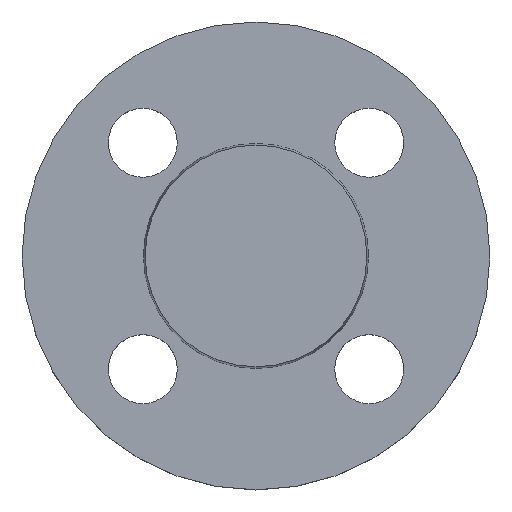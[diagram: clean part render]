
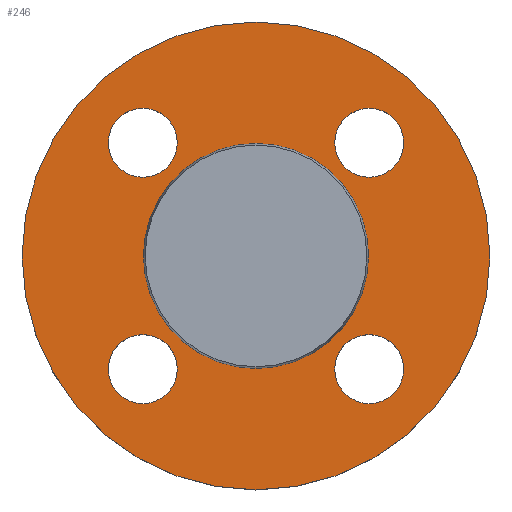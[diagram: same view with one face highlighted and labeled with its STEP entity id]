
A CAD part, top view. The second image highlights one B-rep face of the part: STEP entity #246.
In plain terms, the highlighted planar face has unit normal (0, 0, 1).
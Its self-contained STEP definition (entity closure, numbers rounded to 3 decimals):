
#2 = AXIS2_PLACEMENT_3D ( 'NONE', #385, #386, #387 ) ;
#3 = AXIS2_PLACEMENT_3D ( 'NONE', #490, #491, #494 ) ;
#6 = EDGE_CURVE ( 'NONE', #265, #253, #132, .T. ) ;
#8 = AXIS2_PLACEMENT_3D ( 'NONE', #295, #296, #297 ) ;
#11 = CIRCLE ( 'NONE', #258, 7. ) ;
#20 = CIRCLE ( 'NONE', #3, 22.853 ) ;
#27 = EDGE_CURVE ( 'NONE', #99, #240, #68, .T. ) ;
#36 = AXIS2_PLACEMENT_3D ( 'NONE', #460, #461, #462 ) ;
#41 = EDGE_CURVE ( 'NONE', #117, #109, #11, .T. ) ;
#43 = CIRCLE ( 'NONE', #250, 47.5 ) ;
#46 = AXIS2_PLACEMENT_3D ( 'NONE', #447, #448, #449 ) ;
#49 = CIRCLE ( 'NONE', #46, 7. ) ;
#52 = EDGE_CURVE ( 'NONE', #259, #235, #249, .T. ) ;
#54 = CIRCLE ( 'NONE', #36, 7. ) ;
#68 = CIRCLE ( 'NONE', #8, 47.5 ) ;
#70 = AXIS2_PLACEMENT_3D ( 'NONE', #336, #337, #338 ) ;
#73 = CIRCLE ( 'NONE', #121, 7. ) ;
#78 = CIRCLE ( 'NONE', #2, 7. ) ;
#79 = EDGE_CURVE ( 'NONE', #114, #244, #476, .T. ) ;
#82 = CIRCLE ( 'NONE', #129, 7. ) ;
#86 = AXIS2_PLACEMENT_3D ( 'NONE', #315, #316, #317 ) ;
#99 = VERTEX_POINT ( 'NONE', #345 ) ;
#109 = VERTEX_POINT ( 'NONE', #347 ) ;
#111 = EDGE_LOOP ( 'NONE', ( #190, #191 ) ) ;
#114 = VERTEX_POINT ( 'NONE', #348 ) ;
#115 = EDGE_LOOP ( 'NONE', ( #195, #197 ) ) ;
#117 = VERTEX_POINT ( 'NONE', #351 ) ;
#121 = AXIS2_PLACEMENT_3D ( 'NONE', #395, #396, #397 ) ;
#129 = AXIS2_PLACEMENT_3D ( 'NONE', #409, #410, #411 ) ;
#132 = CIRCLE ( 'NONE', #133, 7. ) ;
#133 = AXIS2_PLACEMENT_3D ( 'NONE', #271, #272, #273 ) ;
#160 = EDGE_CURVE ( 'NONE', #253, #265, #78, .T. ) ;
#163 = EDGE_LOOP ( 'NONE', ( #200, #201 ) ) ;
#182 = EDGE_CURVE ( 'NONE', #239, #242, #73, .T. ) ;
#189 = EDGE_LOOP ( 'NONE', ( #202, #203 ) ) ;
#190 = ORIENTED_EDGE ( 'NONE', *, *, #79, .T. ) ;
#191 = ORIENTED_EDGE ( 'NONE', *, *, #221, .T. ) ;
#192 = ORIENTED_EDGE ( 'NONE', *, *, #6, .T. ) ;
#194 = ORIENTED_EDGE ( 'NONE', *, *, #160, .T. ) ;
#195 = ORIENTED_EDGE ( 'NONE', *, *, #284, .T. ) ;
#197 = ORIENTED_EDGE ( 'NONE', *, *, #41, .T. ) ;
#198 = ORIENTED_EDGE ( 'NONE', *, *, #182, .T. ) ;
#199 = ORIENTED_EDGE ( 'NONE', *, *, #261, .T. ) ;
#200 = ORIENTED_EDGE ( 'NONE', *, *, #402, .T. ) ;
#201 = ORIENTED_EDGE ( 'NONE', *, *, #52, .T. ) ;
#202 = ORIENTED_EDGE ( 'NONE', *, *, #27, .F. ) ;
#203 = ORIENTED_EDGE ( 'NONE', *, *, #312, .F. ) ;
#221 = EDGE_CURVE ( 'NONE', #244, #114, #82, .T. ) ;
#234 = EDGE_LOOP ( 'NONE', ( #192, #194 ) ) ;
#235 = VERTEX_POINT ( 'NONE', #415 ) ;
#236 = EDGE_LOOP ( 'NONE', ( #198, #199 ) ) ;
#239 = VERTEX_POINT ( 'NONE', #416 ) ;
#240 = VERTEX_POINT ( 'NONE', #417 ) ;
#242 = VERTEX_POINT ( 'NONE', #424 ) ;
#244 = VERTEX_POINT ( 'NONE', #426 ) ;
#246 = ADVANCED_FACE ( 'NONE', ( #428, #429, #430, #431, #432, #433 ), #434, .T. ) ;
#249 = CIRCLE ( 'NONE', #86, 22.853 ) ;
#250 = AXIS2_PLACEMENT_3D ( 'NONE', #473, #474, #475 ) ;
#253 = VERTEX_POINT ( 'NONE', #438 ) ;
#258 = AXIS2_PLACEMENT_3D ( 'NONE', #305, #306, #307 ) ;
#259 = VERTEX_POINT ( 'NONE', #445 ) ;
#261 = EDGE_CURVE ( 'NONE', #242, #239, #49, .T. ) ;
#265 = VERTEX_POINT ( 'NONE', #459 ) ;
#271 = CARTESIAN_POINT ( 'NONE',  ( -22.981, -22.981, -2. ) ) ;
#272 = DIRECTION ( 'NONE',  ( 0., 0., -1. ) ) ;
#273 = DIRECTION ( 'NONE',  ( 1., 0., 0. ) ) ;
#284 = EDGE_CURVE ( 'NONE', #109, #117, #54, .T. ) ;
#295 = CARTESIAN_POINT ( 'NONE',  ( 0., 0., -2. ) ) ;
#296 = DIRECTION ( 'NONE',  ( 0., 0., -1. ) ) ;
#297 = DIRECTION ( 'NONE',  ( -1., 0., 0. ) ) ;
#305 = CARTESIAN_POINT ( 'NONE',  ( -22.981, 22.981, -2. ) ) ;
#306 = DIRECTION ( 'NONE',  ( 0., 0., -1. ) ) ;
#307 = DIRECTION ( 'NONE',  ( 1., 0., 0. ) ) ;
#312 = EDGE_CURVE ( 'NONE', #240, #99, #43, .T. ) ;
#315 = CARTESIAN_POINT ( 'NONE',  ( 0., 0., -2. ) ) ;
#316 = DIRECTION ( 'NONE',  ( 0., 0., -1. ) ) ;
#317 = DIRECTION ( 'NONE',  ( -1., 0., 0. ) ) ;
#336 = CARTESIAN_POINT ( 'NONE',  ( 22.981, -22.981, -2. ) ) ;
#337 = DIRECTION ( 'NONE',  ( 0., 0., -1. ) ) ;
#338 = DIRECTION ( 'NONE',  ( 1., 0., 0. ) ) ;
#345 = CARTESIAN_POINT ( 'NONE',  ( 47.5, 0., -2. ) ) ;
#347 = CARTESIAN_POINT ( 'NONE',  ( -15.981, 22.981, -2. ) ) ;
#348 = CARTESIAN_POINT ( 'NONE',  ( 29.981, -22.981, -2. ) ) ;
#351 = CARTESIAN_POINT ( 'NONE',  ( -29.981, 22.981, -2. ) ) ;
#385 = CARTESIAN_POINT ( 'NONE',  ( -22.981, -22.981, -2. ) ) ;
#386 = DIRECTION ( 'NONE',  ( 0., 0., -1. ) ) ;
#387 = DIRECTION ( 'NONE',  ( 1., 0., 0. ) ) ;
#395 = CARTESIAN_POINT ( 'NONE',  ( 22.981, 22.981, -2. ) ) ;
#396 = DIRECTION ( 'NONE',  ( 0., 0., -1. ) ) ;
#397 = DIRECTION ( 'NONE',  ( 1., 0., 0. ) ) ;
#402 = EDGE_CURVE ( 'NONE', #235, #259, #20, .T. ) ;
#409 = CARTESIAN_POINT ( 'NONE',  ( 22.981, -22.981, -2. ) ) ;
#410 = DIRECTION ( 'NONE',  ( 0., 0., -1. ) ) ;
#411 = DIRECTION ( 'NONE',  ( 1., 0., 0. ) ) ;
#415 = CARTESIAN_POINT ( 'NONE',  ( -22.853, 0., -2. ) ) ;
#416 = CARTESIAN_POINT ( 'NONE',  ( 29.981, 22.981, -2. ) ) ;
#417 = CARTESIAN_POINT ( 'NONE',  ( -47.5, 0., -2. ) ) ;
#424 = CARTESIAN_POINT ( 'NONE',  ( 15.981, 22.981, -2. ) ) ;
#425 = AXIS2_PLACEMENT_3D ( 'NONE', #435, #436, #437 ) ;
#426 = CARTESIAN_POINT ( 'NONE',  ( 15.981, -22.981, -2. ) ) ;
#428 = FACE_BOUND ( 'NONE', #111, .T. ) ;
#429 = FACE_BOUND ( 'NONE', #234, .T. ) ;
#430 = FACE_BOUND ( 'NONE', #115, .T. ) ;
#431 = FACE_BOUND ( 'NONE', #236, .T. ) ;
#432 = FACE_BOUND ( 'NONE', #163, .T. ) ;
#433 = FACE_OUTER_BOUND ( 'NONE', #189, .T. ) ;
#434 = PLANE ( 'NONE',  #425 ) ;
#435 = CARTESIAN_POINT ( 'NONE',  ( 22.853, 0., -2. ) ) ;
#436 = DIRECTION ( 'NONE',  ( 0., 0., 1. ) ) ;
#437 = DIRECTION ( 'NONE',  ( 1., 0., 0. ) ) ;
#438 = CARTESIAN_POINT ( 'NONE',  ( -29.981, -22.981, -2. ) ) ;
#445 = CARTESIAN_POINT ( 'NONE',  ( 22.853, 0., -2. ) ) ;
#447 = CARTESIAN_POINT ( 'NONE',  ( 22.981, 22.981, -2. ) ) ;
#448 = DIRECTION ( 'NONE',  ( 0., 0., -1. ) ) ;
#449 = DIRECTION ( 'NONE',  ( 1., 0., 0. ) ) ;
#459 = CARTESIAN_POINT ( 'NONE',  ( -15.981, -22.981, -2. ) ) ;
#460 = CARTESIAN_POINT ( 'NONE',  ( -22.981, 22.981, -2. ) ) ;
#461 = DIRECTION ( 'NONE',  ( 0., 0., -1. ) ) ;
#462 = DIRECTION ( 'NONE',  ( 1., 0., 0. ) ) ;
#473 = CARTESIAN_POINT ( 'NONE',  ( 0., 0., -2. ) ) ;
#474 = DIRECTION ( 'NONE',  ( 0., 0., -1. ) ) ;
#475 = DIRECTION ( 'NONE',  ( -1., 0., 0. ) ) ;
#476 = CIRCLE ( 'NONE', #70, 7. ) ;
#490 = CARTESIAN_POINT ( 'NONE',  ( 0., 0., -2. ) ) ;
#491 = DIRECTION ( 'NONE',  ( 0., 0., -1. ) ) ;
#494 = DIRECTION ( 'NONE',  ( -1., 0., 0. ) ) ;
